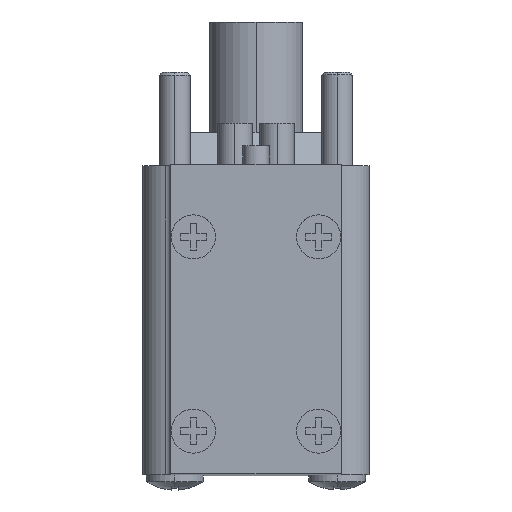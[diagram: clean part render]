
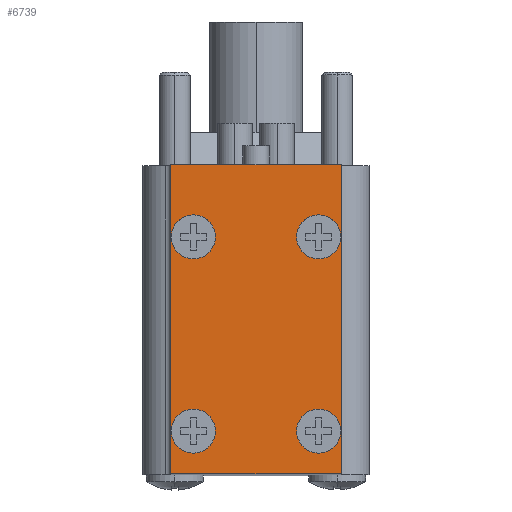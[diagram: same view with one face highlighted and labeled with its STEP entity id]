
A CAD part, top view. The second image highlights one B-rep face of the part: STEP entity #6739.
In plain terms, the highlighted planar face has unit normal (0, 0, 1).
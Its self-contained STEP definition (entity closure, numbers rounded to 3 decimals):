
#215=DIRECTION('',(-1.,0.,0.));
#216=VECTOR('',#215,19.3);
#217=CARTESIAN_POINT('',(9.65,18.,54.55));
#218=LINE('',#217,#216);
#1785=DIRECTION('',(0.,1.,0.));
#1786=VECTOR('',#1785,35.);
#1787=CARTESIAN_POINT('',(9.65,-17.,54.55));
#1788=LINE('',#1787,#1786);
#1841=DIRECTION('',(0.,-1.,0.));
#1842=VECTOR('',#1841,35.);
#1843=CARTESIAN_POINT('',(-9.65,18.,54.55));
#1844=LINE('',#1843,#1842);
#1905=CARTESIAN_POINT('',(7.1,-12.15,54.55));
#1906=DIRECTION('',(0.,0.,1.));
#1907=DIRECTION('',(-1.,0.,0.));
#1908=AXIS2_PLACEMENT_3D('',#1905,#1906,#1907);
#1910=CARTESIAN_POINT('',(7.1,-12.15,54.55));
#1911=DIRECTION('',(0.,0.,1.));
#1912=DIRECTION('',(1.,0.,0.));
#1913=AXIS2_PLACEMENT_3D('',#1910,#1911,#1912);
#1915=CARTESIAN_POINT('',(-7.1,-12.15,54.55));
#1916=DIRECTION('',(0.,0.,1.));
#1917=DIRECTION('',(-1.,0.,0.));
#1918=AXIS2_PLACEMENT_3D('',#1915,#1916,#1917);
#1920=CARTESIAN_POINT('',(-7.1,-12.15,54.55));
#1921=DIRECTION('',(0.,0.,1.));
#1922=DIRECTION('',(1.,0.,0.));
#1923=AXIS2_PLACEMENT_3D('',#1920,#1921,#1922);
#1925=CARTESIAN_POINT('',(7.1,9.85,54.55));
#1926=DIRECTION('',(0.,0.,1.));
#1927=DIRECTION('',(-1.,0.,0.));
#1928=AXIS2_PLACEMENT_3D('',#1925,#1926,#1927);
#1930=CARTESIAN_POINT('',(7.1,9.85,54.55));
#1931=DIRECTION('',(0.,0.,1.));
#1932=DIRECTION('',(1.,0.,0.));
#1933=AXIS2_PLACEMENT_3D('',#1930,#1931,#1932);
#1935=CARTESIAN_POINT('',(-7.1,9.85,54.55));
#1936=DIRECTION('',(0.,0.,1.));
#1937=DIRECTION('',(-1.,0.,0.));
#1938=AXIS2_PLACEMENT_3D('',#1935,#1936,#1937);
#1940=CARTESIAN_POINT('',(-7.1,9.85,54.55));
#1941=DIRECTION('',(0.,0.,1.));
#1942=DIRECTION('',(1.,0.,0.));
#1943=AXIS2_PLACEMENT_3D('',#1940,#1941,#1942);
#1945=DIRECTION('',(1.,0.,0.));
#1946=VECTOR('',#1945,19.3);
#1947=CARTESIAN_POINT('',(-9.65,-17.,54.55));
#1948=LINE('',#1947,#1946);
#3192=CARTESIAN_POINT('',(9.65,18.,54.55));
#3194=VERTEX_POINT('',#3192);
#3195=CARTESIAN_POINT('',(-9.65,18.,54.55));
#3196=VERTEX_POINT('',#3195);
#3239=CARTESIAN_POINT('',(9.65,-17.,54.55));
#3240=VERTEX_POINT('',#3239);
#3263=CARTESIAN_POINT('',(-9.65,-17.,54.55));
#3264=VERTEX_POINT('',#3263);
#3782=CARTESIAN_POINT('',(4.6,-12.15,54.55));
#3783=CARTESIAN_POINT('',(9.6,-12.15,54.55));
#3784=VERTEX_POINT('',#3782);
#3785=VERTEX_POINT('',#3783);
#3786=CARTESIAN_POINT('',(-9.6,-12.15,54.55));
#3787=CARTESIAN_POINT('',(-4.6,-12.15,54.55));
#3788=VERTEX_POINT('',#3786);
#3789=VERTEX_POINT('',#3787);
#3790=CARTESIAN_POINT('',(4.6,9.85,54.55));
#3791=CARTESIAN_POINT('',(9.6,9.85,54.55));
#3792=VERTEX_POINT('',#3790);
#3793=VERTEX_POINT('',#3791);
#3794=CARTESIAN_POINT('',(-9.6,9.85,54.55));
#3795=CARTESIAN_POINT('',(-4.6,9.85,54.55));
#3796=VERTEX_POINT('',#3794);
#3797=VERTEX_POINT('',#3795);
#6703=CARTESIAN_POINT('',(9.65,-17.,54.55));
#6704=DIRECTION('',(0.,0.,1.));
#6705=DIRECTION('',(-1.,0.,0.));
#6706=AXIS2_PLACEMENT_3D('',#6703,#6704,#6705);
#6707=PLANE('',#6706);
#6708=ORIENTED_EDGE('',*,*,#6579,.F.);
#6709=ORIENTED_EDGE('',*,*,#4219,.F.);
#6710=ORIENTED_EDGE('',*,*,#6504,.F.);
#6712=ORIENTED_EDGE('',*,*,#6711,.F.);
#6713=EDGE_LOOP('',(#6708,#6709,#6710,#6712));
#6714=FACE_OUTER_BOUND('',#6713,.F.);
#6716=ORIENTED_EDGE('',*,*,#6715,.T.);
#6718=ORIENTED_EDGE('',*,*,#6717,.T.);
#6719=EDGE_LOOP('',(#6716,#6718));
#6720=FACE_BOUND('',#6719,.F.);
#6722=ORIENTED_EDGE('',*,*,#6721,.T.);
#6724=ORIENTED_EDGE('',*,*,#6723,.T.);
#6725=EDGE_LOOP('',(#6722,#6724));
#6726=FACE_BOUND('',#6725,.F.);
#6728=ORIENTED_EDGE('',*,*,#6727,.T.);
#6730=ORIENTED_EDGE('',*,*,#6729,.T.);
#6731=EDGE_LOOP('',(#6728,#6730));
#6732=FACE_BOUND('',#6731,.F.);
#6734=ORIENTED_EDGE('',*,*,#6733,.T.);
#6736=ORIENTED_EDGE('',*,*,#6735,.T.);
#6737=EDGE_LOOP('',(#6734,#6736));
#6738=FACE_BOUND('',#6737,.F.);
#1909=CIRCLE('',#1908,2.5);
#1914=CIRCLE('',#1913,2.5);
#1919=CIRCLE('',#1918,2.5);
#1924=CIRCLE('',#1923,2.5);
#1929=CIRCLE('',#1928,2.5);
#1934=CIRCLE('',#1933,2.5);
#1939=CIRCLE('',#1938,2.5);
#1944=CIRCLE('',#1943,2.5);
#4219=EDGE_CURVE('',#3194,#3196,#218,.T.);
#6504=EDGE_CURVE('',#3240,#3194,#1788,.T.);
#6579=EDGE_CURVE('',#3196,#3264,#1844,.T.);
#6711=EDGE_CURVE('',#3264,#3240,#1948,.T.);
#6715=EDGE_CURVE('',#3784,#3785,#1909,.T.);
#6717=EDGE_CURVE('',#3785,#3784,#1914,.T.);
#6721=EDGE_CURVE('',#3788,#3789,#1919,.T.);
#6723=EDGE_CURVE('',#3789,#3788,#1924,.T.);
#6727=EDGE_CURVE('',#3792,#3793,#1929,.T.);
#6729=EDGE_CURVE('',#3793,#3792,#1934,.T.);
#6733=EDGE_CURVE('',#3796,#3797,#1939,.T.);
#6735=EDGE_CURVE('',#3797,#3796,#1944,.T.);
#6739=ADVANCED_FACE('',(#6714,#6720,#6726,#6732,#6738),#6707,.T.);
